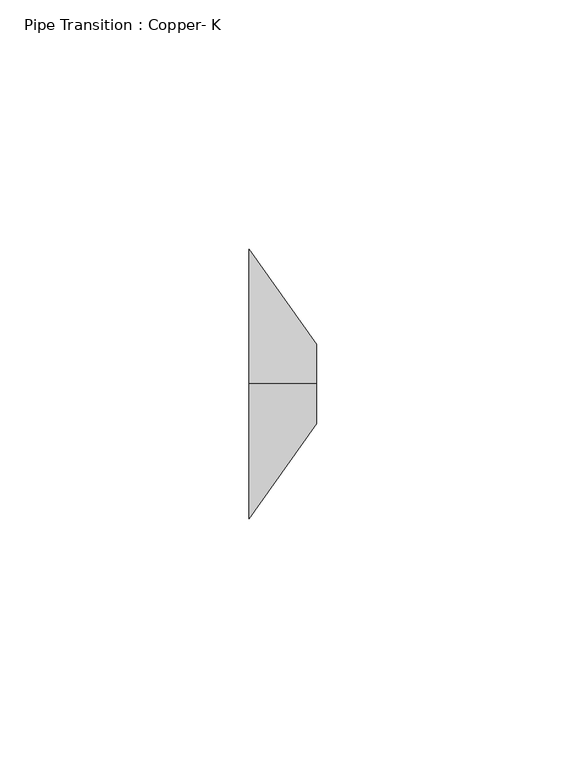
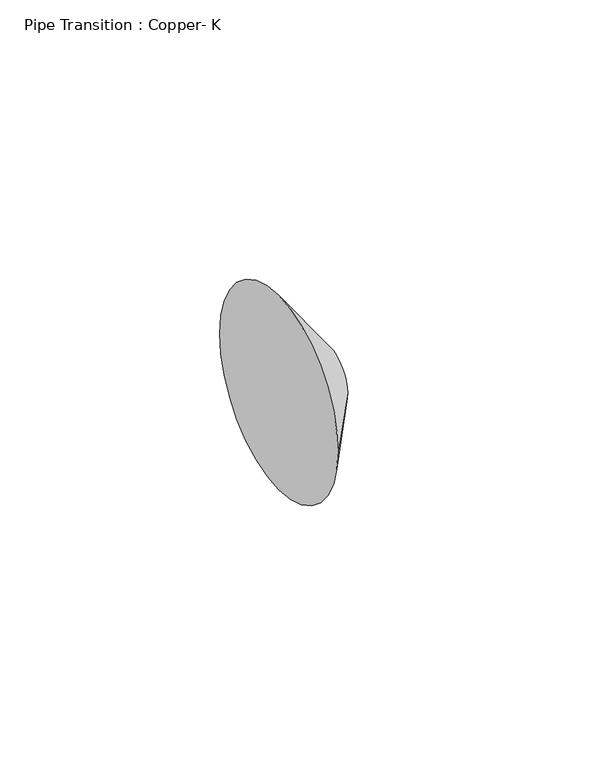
"""IFC4 building model written with IfcOpenShell, lengths in millimetres: pipe fitting geometry, Pipe Transition : Copper- K."""

from ifc_helpers import new_model, si_unit, frame, origin, place, context, project, spatial, circle_curve, source, transform, mapped, element, save
from ifc_brep_helpers import plane_surface, spline_surface, advanced_brep


def pipe_transition_copper_k_df3eef9c(model_context):
    return source(origin(), model_context, "Body", "AdvancedBrep", [
        advanced_brep(
        [(13.49375, 0.0, 7.9045429), (13.49375, -7.9375, -0.0329571), (13.49375, 0.0, -7.9704571), (13.49375, 7.9375, -0.0329571), (0.0, 0.0, 26.9875), (0.0, 26.9875, 0.0), (0.0, 0.0, -26.9875), (0.0, -26.9875, 0.0)],
        [
            (0, 1, circle_curve(frame((13.49375, 0.0, -0.0329571), z_axis=(1.0, 0.0, 0.0), x_axis=(0.0, 1.0, 0.0)), 7.9375)),
            (1, 2, circle_curve(frame((13.49375, 0.0, -0.0329571), z_axis=(1.0, 0.0, 0.0), x_axis=(0.0, 1.0, 0.0)), 7.9375)),
            (2, 3, circle_curve(frame((13.49375, 0.0, -0.0329571), z_axis=(1.0, 0.0, 0.0), x_axis=(0.0, 1.0, 0.0)), 7.9375)),
            (3, 0, circle_curve(frame((13.49375, 0.0, -0.0329571), z_axis=(1.0, 0.0, 0.0), x_axis=(0.0, 1.0, 0.0)), 7.9375)),
            (4, 5, circle_curve(frame((0.0, 0.0, 0.0), z_axis=(-1.0, 0.0, 0.0), x_axis=(0.0, 1.0, 0.0)), 26.9875)),
            (5, 6, circle_curve(frame((0.0, 0.0, 0.0), z_axis=(-1.0, 0.0, 0.0), x_axis=(0.0, 1.0, 0.0)), 26.9875)),
            (6, 7, circle_curve(frame((0.0, 0.0, 0.0), z_axis=(-1.0, 0.0, 0.0), x_axis=(0.0, 1.0, 0.0)), 26.9875)),
            (7, 4, circle_curve(frame((0.0, 0.0, 0.0), z_axis=(-1.0, 0.0, 0.0), x_axis=(0.0, 1.0, 0.0)), 26.9875)),
            (7, 1),
            (0, 4),
            (6, 2),
            (5, 3),
        ],
        [
            plane_surface(frame((13.49375, 0.0, -0.0329571), z_axis=(1.0, 0.0, 0.0), x_axis=(0.0, -1.0, 0.0))),
            plane_surface(frame((0.0, 0.0, 0.0), z_axis=(-1.0, 0.0, 0.0), x_axis=(0.0, -1.0, 0.0))),
            spline_surface(2, 1, [[(0.0, 0.0, 26.9875), (13.49375, 0.0, 7.9045429)], [(0.0, -26.9875, 26.9875), (13.49375, -7.9375, 7.9045429)], [(0.0, -26.9875, 0.0), (13.49375, -7.9375, -0.0329571)]], [3, 3], [2, 2], [0.0, 1.0], [0.0, 1.0], weights=[[1.0, 1.0], [0.7071067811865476, 0.7071067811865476], [1.0, 1.0]]),
            spline_surface(2, 1, [[(0.0, -26.9875, 0.0), (13.49375, -7.9375, -0.0329571)], [(0.0, -26.9875, -26.9875), (13.49375, -7.9375, -7.9704571)], [(0.0, 0.0, -26.9875), (13.49375, 0.0, -7.9704571)]], [3, 3], [2, 2], [0.0, 1.0], [0.0, 1.0], weights=[[1.0, 1.0], [0.7071067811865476, 0.7071067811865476], [1.0, 1.0]]),
            spline_surface(2, 1, [[(0.0, 0.0, -26.9875), (13.49375, 0.0, -7.9704571)], [(0.0, 26.9875, -26.9875), (13.49375, 7.9375, -7.9704571)], [(0.0, 26.9875, 0.0), (13.49375, 7.9375, -0.0329571)]], [3, 3], [2, 2], [0.0, 1.0], [0.0, 1.0], weights=[[1.0, 1.0], [0.7071067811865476, 0.7071067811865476], [1.0, 1.0]]),
            spline_surface(2, 1, [[(0.0, 26.9875, 0.0), (13.49375, 7.9375, -0.0329571)], [(0.0, 26.9875, 26.9875), (13.49375, 7.9375, 7.9045429)], [(0.0, 0.0, 26.9875), (13.49375, 0.0, 7.9045429)]], [3, 3], [2, 2], [0.0, 1.0], [0.0, 1.0], weights=[[1.0, 1.0], [0.7071067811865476, 0.7071067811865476], [1.0, 1.0]]),
        ],
        [
            (0, [[1, 2, 3, 4]]),
            (1, [[5, 6, 7, 8]]),
            (2, [[-8, 9, -1, 10]]),
            (3, [[-7, 11, -2, -9]]),
            (4, [[-6, 12, -3, -11]]),
            (5, [[-5, -10, -4, -12]]),
        ],
    ),
        advanced_brep(
        [(13.49375, 0.0, 7.9045429), (13.49375, -7.9375, -0.0329571), (13.49375, 0.0, -7.9704571), (13.49375, 7.9375, -0.0329571), (0.0, 0.0, 26.9875), (0.0, 26.9875, 0.0), (0.0, 0.0, -26.9875), (0.0, -26.9875, 0.0)],
        [
            (0, 1, circle_curve(frame((13.49375, 0.0, -0.0329571), z_axis=(1.0, 0.0, 0.0), x_axis=(0.0, 1.0, 0.0)), 7.9375)),
            (1, 2, circle_curve(frame((13.49375, 0.0, -0.0329571), z_axis=(1.0, 0.0, 0.0), x_axis=(0.0, 1.0, 0.0)), 7.9375)),
            (2, 3, circle_curve(frame((13.49375, 0.0, -0.0329571), z_axis=(1.0, 0.0, 0.0), x_axis=(0.0, 1.0, 0.0)), 7.9375)),
            (3, 0, circle_curve(frame((13.49375, 0.0, -0.0329571), z_axis=(1.0, 0.0, 0.0), x_axis=(0.0, 1.0, 0.0)), 7.9375)),
            (4, 5, circle_curve(frame((0.0, 0.0, 0.0), z_axis=(-1.0, 0.0, 0.0), x_axis=(0.0, 1.0, 0.0)), 26.9875)),
            (5, 6, circle_curve(frame((0.0, 0.0, 0.0), z_axis=(-1.0, 0.0, 0.0), x_axis=(0.0, 1.0, 0.0)), 26.9875)),
            (6, 7, circle_curve(frame((0.0, 0.0, 0.0), z_axis=(-1.0, 0.0, 0.0), x_axis=(0.0, 1.0, 0.0)), 26.9875)),
            (7, 4, circle_curve(frame((0.0, 0.0, 0.0), z_axis=(-1.0, 0.0, 0.0), x_axis=(0.0, 1.0, 0.0)), 26.9875)),
            (7, 1),
            (0, 4),
            (6, 2),
            (5, 3),
        ],
        [
            plane_surface(frame((13.49375, 0.0, -0.0329571), z_axis=(1.0, 0.0, 0.0), x_axis=(0.0, -1.0, 0.0))),
            plane_surface(frame((0.0, 0.0, 0.0), z_axis=(-1.0, 0.0, 0.0), x_axis=(0.0, -1.0, 0.0))),
            spline_surface(2, 1, [[(0.0, 0.0, 26.9875), (13.49375, 0.0, 7.9045429)], [(0.0, -26.9875, 26.9875), (13.49375, -7.9375, 7.9045429)], [(0.0, -26.9875, 0.0), (13.49375, -7.9375, -0.0329571)]], [3, 3], [2, 2], [0.0, 1.0], [0.0, 1.0], weights=[[1.0, 1.0], [0.7071067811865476, 0.7071067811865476], [1.0, 1.0]]),
            spline_surface(2, 1, [[(0.0, -26.9875, 0.0), (13.49375, -7.9375, -0.0329571)], [(0.0, -26.9875, -26.9875), (13.49375, -7.9375, -7.9704571)], [(0.0, 0.0, -26.9875), (13.49375, 0.0, -7.9704571)]], [3, 3], [2, 2], [0.0, 1.0], [0.0, 1.0], weights=[[1.0, 1.0], [0.7071067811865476, 0.7071067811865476], [1.0, 1.0]]),
            spline_surface(2, 1, [[(0.0, 0.0, -26.9875), (13.49375, 0.0, -7.9704571)], [(0.0, 26.9875, -26.9875), (13.49375, 7.9375, -7.9704571)], [(0.0, 26.9875, 0.0), (13.49375, 7.9375, -0.0329571)]], [3, 3], [2, 2], [0.0, 1.0], [0.0, 1.0], weights=[[1.0, 1.0], [0.7071067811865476, 0.7071067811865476], [1.0, 1.0]]),
            spline_surface(2, 1, [[(0.0, 26.9875, 0.0), (13.49375, 7.9375, -0.0329571)], [(0.0, 26.9875, 26.9875), (13.49375, 7.9375, 7.9045429)], [(0.0, 0.0, 26.9875), (13.49375, 0.0, 7.9045429)]], [3, 3], [2, 2], [0.0, 1.0], [0.0, 1.0], weights=[[1.0, 1.0], [0.7071067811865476, 0.7071067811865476], [1.0, 1.0]]),
        ],
        [
            (0, [[1, 2, 3, 4]]),
            (1, [[5, 6, 7, 8]]),
            (2, [[-8, 9, -1, 10]]),
            (3, [[-7, 11, -2, -9]]),
            (4, [[-6, 12, -3, -11]]),
            (5, [[-5, -10, -4, -12]]),
        ],
    ),
    ])


if __name__ == "__main__":
    model = new_model("IFC4")
    model_context = context("Model", 3, world=origin())
    ifc_project = project(units=[si_unit("LENGTHUNIT", "METRE", prefix="MILLI")], contexts=[model_context])
    site = spatial("IfcSite", under=ifc_project)
    building = spatial("IfcBuilding", under=site)
    placement = place(None, origin())
    pipe_transition_copper_k_shape = pipe_transition_copper_k_df3eef9c(model_context)
    element("IfcPipeFitting", 1, ObjectType="Pipe Transition : Copper- K", at=placement, inside=building, context=model_context, shape_type="MappedRepresentation", body=[
        mapped(pipe_transition_copper_k_shape, transform((0.0, 0.0, 0.0), x_axis=(1.0, 0.0, 0.0), y_axis=(0.0, 1.0, 0.0), z_axis=(0.0, 0.0, 1.0))),
    ])
    save(model, "model.ifc")
